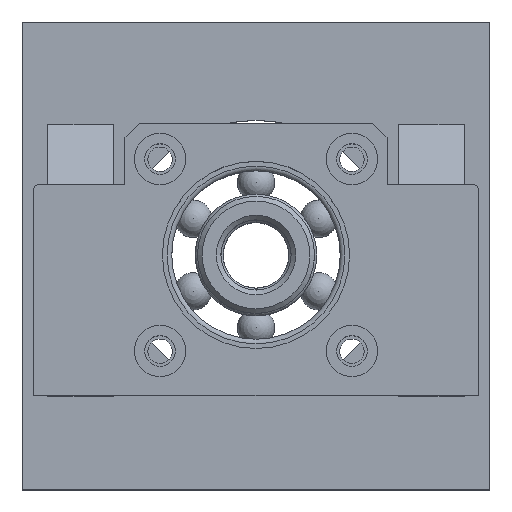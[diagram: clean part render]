
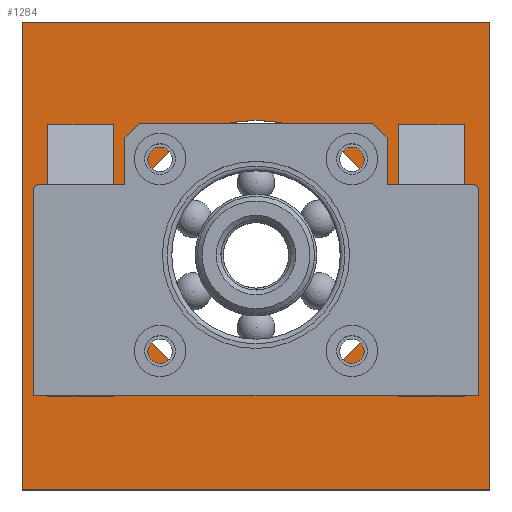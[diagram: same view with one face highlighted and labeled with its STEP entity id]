
A CAD part, top view. The second image highlights one B-rep face of the part: STEP entity #1284.
In plain terms, the highlighted planar face has unit normal (0, 0, 1).
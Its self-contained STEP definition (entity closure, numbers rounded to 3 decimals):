
#838=FACE_BOUND('',#1759,.T.);
#839=FACE_BOUND('',#1760,.T.);
#840=FACE_BOUND('',#1761,.T.);
#841=FACE_BOUND('',#1762,.T.);
#1092=CIRCLE('',#4384,29.);
#1284=ADVANCED_FACE('',(#838,#839,#840,#841),#1523,.F.);
#1523=PLANE('',#4385);
#1759=EDGE_LOOP('',(#2153,#2154,#2155,#2156));
#1760=EDGE_LOOP('',(#2157,#2158,#2159,#2160));
#1761=EDGE_LOOP('',(#2161));
#1762=EDGE_LOOP('',(#2162,#2163,#2164,#2165));
#2153=ORIENTED_EDGE('',*,*,#3469,.F.);
#2154=ORIENTED_EDGE('',*,*,#3470,.T.);
#2155=ORIENTED_EDGE('',*,*,#3471,.T.);
#2156=ORIENTED_EDGE('',*,*,#3472,.T.);
#2157=ORIENTED_EDGE('',*,*,#3473,.T.);
#2158=ORIENTED_EDGE('',*,*,#3474,.T.);
#2159=ORIENTED_EDGE('',*,*,#3475,.T.);
#2160=ORIENTED_EDGE('',*,*,#3476,.T.);
#2161=ORIENTED_EDGE('',*,*,#3477,.T.);
#2162=ORIENTED_EDGE('',*,*,#3478,.F.);
#2163=ORIENTED_EDGE('',*,*,#3479,.F.);
#2164=ORIENTED_EDGE('',*,*,#3480,.F.);
#2165=ORIENTED_EDGE('',*,*,#3481,.T.);
#3115=VERTEX_POINT('',#5988);
#3116=VERTEX_POINT('',#5989);
#3117=VERTEX_POINT('',#5991);
#3118=VERTEX_POINT('',#5993);
#3119=VERTEX_POINT('',#5996);
#3120=VERTEX_POINT('',#5997);
#3121=VERTEX_POINT('',#5999);
#3122=VERTEX_POINT('',#6001);
#3123=VERTEX_POINT('',#6004);
#3124=VERTEX_POINT('',#6006);
#3125=VERTEX_POINT('',#6007);
#3126=VERTEX_POINT('',#6009);
#3127=VERTEX_POINT('',#6011);
#3469=EDGE_CURVE('',#3115,#3116,#3939,.T.);
#3470=EDGE_CURVE('',#3115,#3117,#3940,.T.);
#3471=EDGE_CURVE('',#3117,#3118,#3941,.T.);
#3472=EDGE_CURVE('',#3118,#3116,#3942,.T.);
#3473=EDGE_CURVE('',#3119,#3120,#3943,.T.);
#3474=EDGE_CURVE('',#3120,#3121,#3944,.T.);
#3475=EDGE_CURVE('',#3121,#3122,#3945,.T.);
#3476=EDGE_CURVE('',#3122,#3119,#3946,.T.);
#3477=EDGE_CURVE('',#3123,#3123,#1092,.T.);
#3478=EDGE_CURVE('',#3124,#3125,#3947,.T.);
#3479=EDGE_CURVE('',#3126,#3124,#3948,.T.);
#3480=EDGE_CURVE('',#3127,#3126,#3949,.T.);
#3481=EDGE_CURVE('',#3127,#3125,#3950,.T.);
#3939=LINE('',#5987,#4163);
#3940=LINE('',#5990,#4164);
#3941=LINE('',#5992,#4165);
#3942=LINE('',#5994,#4166);
#3943=LINE('',#5995,#4167);
#3944=LINE('',#5998,#4168);
#3945=LINE('',#6000,#4169);
#3946=LINE('',#6002,#4170);
#3947=LINE('',#6005,#4171);
#3948=LINE('',#6008,#4172);
#3949=LINE('',#6010,#4173);
#3950=LINE('',#6012,#4174);
#4163=VECTOR('',#4869,1.);
#4164=VECTOR('',#4870,1.);
#4165=VECTOR('',#4871,1.);
#4166=VECTOR('',#4872,1.);
#4167=VECTOR('',#4873,1.);
#4168=VECTOR('',#4874,1.);
#4169=VECTOR('',#4875,1.);
#4170=VECTOR('',#4876,1.);
#4171=VECTOR('',#4879,1.);
#4172=VECTOR('',#4880,1.);
#4173=VECTOR('',#4881,1.);
#4174=VECTOR('',#4882,1.);
#4384=AXIS2_PLACEMENT_3D('',#6003,#4877,#4878);
#4385=AXIS2_PLACEMENT_3D('',#6013,#4883,#4884);
#4869=DIRECTION('',(-1.,0.,0.));
#4870=DIRECTION('',(0.,-1.,0.));
#4871=DIRECTION('',(-1.,0.,0.));
#4872=DIRECTION('',(0.,1.,0.));
#4873=DIRECTION('',(0.,-1.,0.));
#4874=DIRECTION('',(1.,0.,0.));
#4875=DIRECTION('',(0.,1.,0.));
#4876=DIRECTION('',(-1.,0.,0.));
#4877=DIRECTION('',(0.,0.,-1.));
#4878=DIRECTION('',(-1.,0.,0.));
#4879=DIRECTION('',(0.,-1.,0.));
#4880=DIRECTION('',(-1.,0.,0.));
#4881=DIRECTION('',(0.,1.,0.));
#4882=DIRECTION('',(-1.,0.,0.));
#4883=DIRECTION('',(0.,0.,-1.));
#4884=DIRECTION('',(-1.,0.,0.));
#5987=CARTESIAN_POINT('',(30.5,28.,89.));
#5988=CARTESIAN_POINT('',(44.5,28.,89.));
#5989=CARTESIAN_POINT('',(30.5,28.,89.));
#5990=CARTESIAN_POINT('',(44.5,15.,89.));
#5991=CARTESIAN_POINT('',(44.5,-30.,89.));
#5992=CARTESIAN_POINT('',(0.,-30.,89.));
#5993=CARTESIAN_POINT('',(30.5,-30.,89.));
#5994=CARTESIAN_POINT('',(30.5,-29.,89.));
#5995=CARTESIAN_POINT('',(-50.,50.,89.));
#5996=CARTESIAN_POINT('',(-50.,50.,89.));
#5997=CARTESIAN_POINT('',(-50.,-50.,89.));
#5998=CARTESIAN_POINT('',(-50.,-50.,89.));
#5999=CARTESIAN_POINT('',(50.,-50.,89.));
#6000=CARTESIAN_POINT('',(50.,-50.,89.));
#6001=CARTESIAN_POINT('',(50.,50.,89.));
#6002=CARTESIAN_POINT('',(50.,50.,89.));
#6003=CARTESIAN_POINT('',(0.,0.,89.));
#6004=CARTESIAN_POINT('',(-29.,0.,89.));
#6005=CARTESIAN_POINT('',(-44.5,15.,89.));
#6006=CARTESIAN_POINT('',(-44.5,28.,89.));
#6007=CARTESIAN_POINT('',(-44.5,-30.,89.));
#6008=CARTESIAN_POINT('',(-30.5,28.,89.));
#6009=CARTESIAN_POINT('',(-30.5,28.,89.));
#6010=CARTESIAN_POINT('',(-30.5,-29.,89.));
#6011=CARTESIAN_POINT('',(-30.5,-30.,89.));
#6012=CARTESIAN_POINT('',(0.,-30.,89.));
#6013=CARTESIAN_POINT('',(0.,0.,89.));
